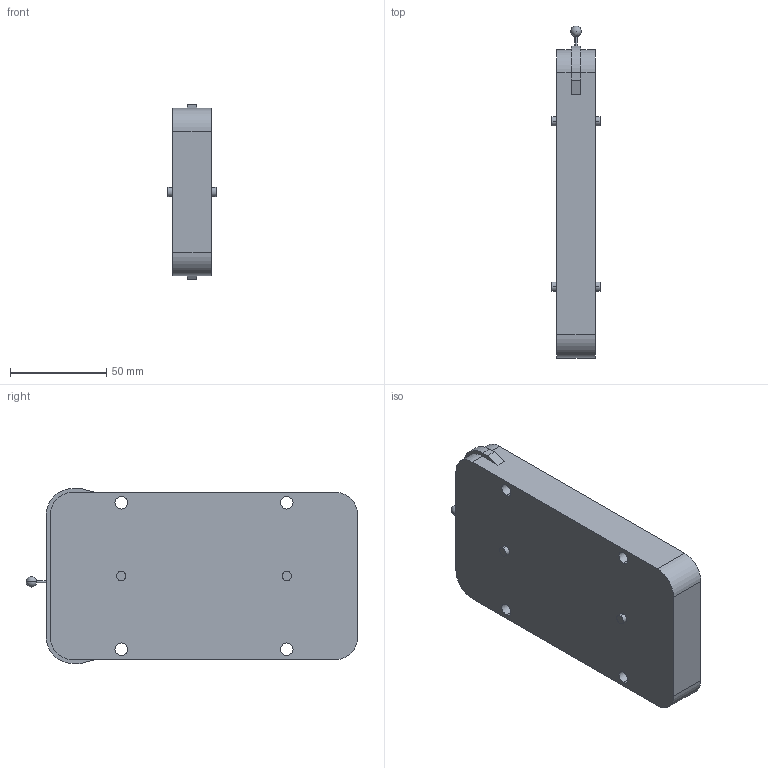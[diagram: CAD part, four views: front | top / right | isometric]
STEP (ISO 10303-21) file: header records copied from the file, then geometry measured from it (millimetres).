
FILE_DESCRIPTION (( 'STEP AP214' ), '1' );
FILE_NAME ('D-M_Klappenhalter.STEP', '2017-09-21T07:48:07', ( '' ), ( '' ), 'SwSTEP 2.0', 'SolidWorks 2015', '' );
FILE_SCHEMA (( 'AUTOMOTIVE_DESIGN' ));
Length unit declared in the file: millimetre
Products named in the file (1): D-M_Klappenhalter
Bounding box: 25 x 172.38 x 91 mm (x, y, z)
Volume: 274560.6 mm3; surface area: 39179.2 mm2
Topology: 1 solids, 1 shells, 46 faces, 123 edges, 82 vertices
Faces by surface type: cylinder 26, plane 18, sphere 2
Entity records: 1476 total; most frequent: DIRECTION 268, CARTESIAN_POINT 244, ORIENTED_EDGE 236, EDGE_CURVE 118, AXIS2_PLACEMENT_3D 103, VERTEX_POINT 79, LINE 62, VECTOR 62
